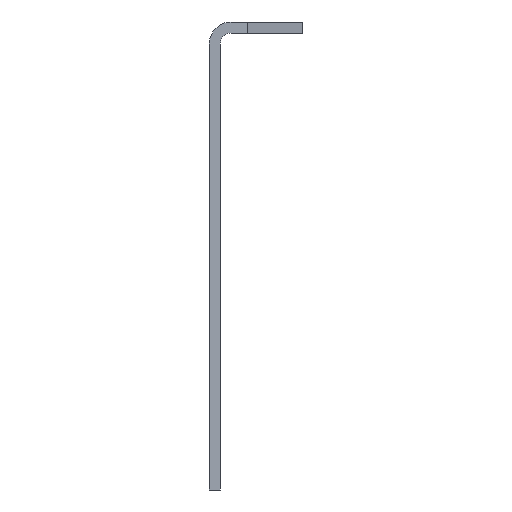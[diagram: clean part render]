
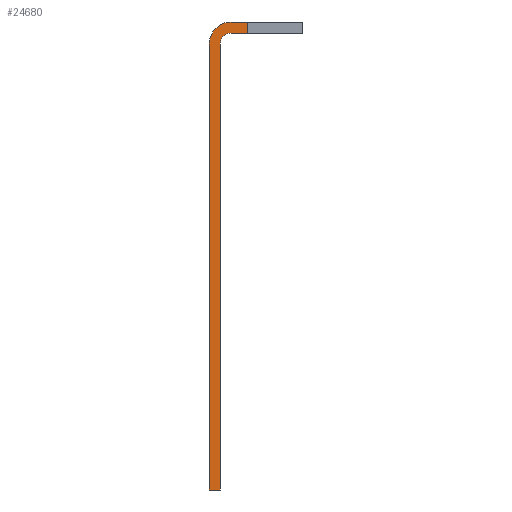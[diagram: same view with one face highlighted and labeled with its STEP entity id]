
A CAD part, left-side view. The second image highlights one B-rep face of the part: STEP entity #24680.
In plain terms, the highlighted planar face has unit normal (-1, 0, 0).
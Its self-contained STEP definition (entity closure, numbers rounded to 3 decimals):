
#840=CARTESIAN_POINT('',(0.,92.,0.));
#850=VERTEX_POINT('',#840);
#900=CARTESIAN_POINT('',(0.,92.,2.));
#910=DIRECTION('',(1.,0.,0.));
#920=DIRECTION('',(0.,0.,-1.));
#930=AXIS2_PLACEMENT_3D('',#900,#910,#920);
#940=CIRCLE('',#930,2.);
#950=CARTESIAN_POINT('',(0.,94.,2.));
#960=VERTEX_POINT('',#950);
#970=EDGE_CURVE('',#850,#960,#940,.T.);
#16200=CARTESIAN_POINT('',(0.,11.,0.));
#16210=VERTEX_POINT('',#16200);
#16240=CARTESIAN_POINT('',(0.,159.163,0.));
#16250=DIRECTION('',(0.,-1.,0.));
#16260=VECTOR('',#16250,1.);
#16270=LINE('',#16240,#16260);
#16280=EDGE_CURVE('',#850,#16210,#16270,.T.);
#16930=CARTESIAN_POINT('',(0.,94.,0.));
#16940=DIRECTION('',(0.,0.,-1.));
#16950=VECTOR('',#16940,1.);
#16960=LINE('',#16930,#16950);
#16970=CARTESIAN_POINT('',(0.,94.,5.002));
#16980=VERTEX_POINT('',#16970);
#16990=EDGE_CURVE('',#16980,#960,#16960,.T.);
#22700=CARTESIAN_POINT('',(0.,96.,5.002));
#22710=VERTEX_POINT('',#22700);
#22740=CARTESIAN_POINT('',(0.,96.,0.));
#22750=DIRECTION('',(0.,0.,-1.));
#22760=VECTOR('',#22750,1.);
#22770=LINE('',#22740,#22760);
#22780=CARTESIAN_POINT('',(0.,96.,2.));
#22790=VERTEX_POINT('',#22780);
#22800=EDGE_CURVE('',#22710,#22790,#22770,.T.);
#23050=CARTESIAN_POINT('',(0.,92.,2.));
#23060=DIRECTION('',(1.,0.,0.));
#23070=DIRECTION('',(0.,0.,-1.));
#23080=AXIS2_PLACEMENT_3D('',#23050,#23060,#23070);
#23090=CIRCLE('',#23080,4.);
#23100=CARTESIAN_POINT('',(0.,92.,-2.));
#23110=VERTEX_POINT('',#23100);
#23120=EDGE_CURVE('',#23110,#22790,#23090,.T.);
#24360=CARTESIAN_POINT('',(0.,145.,1.837));
#24370=DIRECTION('',(-1.,-0.,-0.));
#24380=DIRECTION('',(0.,0.,-1.));
#24390=AXIS2_PLACEMENT_3D('',#24360,#24370,#24380);
#24400=PLANE('',#24390);
#24410=ORIENTED_EDGE('',*,*,#23120,.F.);
#24420=ORIENTED_EDGE('',*,*,#22800,.T.);
#24430=CARTESIAN_POINT('',(0.,95.,5.002));
#24440=DIRECTION('',(0.,-1.,0.));
#24450=VECTOR('',#24440,1.);
#24460=LINE('',#24430,#24450);
#24470=EDGE_CURVE('',#22710,#16980,#24460,.T.);
#24480=ORIENTED_EDGE('',*,*,#24470,.F.);
#24490=ORIENTED_EDGE('',*,*,#16990,.F.);
#24500=ORIENTED_EDGE('',*,*,#970,.T.);
#24510=ORIENTED_EDGE('',*,*,#16280,.F.);
#24520=CARTESIAN_POINT('',(0.,11.,0.));
#24530=DIRECTION('',(0.,0.,-1.));
#24540=VECTOR('',#24530,1.);
#24550=LINE('',#24520,#24540);
#24560=CARTESIAN_POINT('',(0.,11.,-2.));
#24570=VERTEX_POINT('',#24560);
#24580=EDGE_CURVE('',#16210,#24570,#24550,.T.);
#24590=ORIENTED_EDGE('',*,*,#24580,.F.);
#24600=CARTESIAN_POINT('',(0.,0.,-2.));
#24610=DIRECTION('',(0.,-1.,0.));
#24620=VECTOR('',#24610,1.);
#24630=LINE('',#24600,#24620);
#24640=EDGE_CURVE('',#23110,#24570,#24630,.T.);
#24650=ORIENTED_EDGE('',*,*,#24640,.T.);
#24660=EDGE_LOOP('',(#24650,#24590,#24510,#24500,#24490,#24480,#24420,
#24410));
#24670=FACE_OUTER_BOUND('',#24660,.T.);
#24680=ADVANCED_FACE('',(#24670),#24400,.T.);
